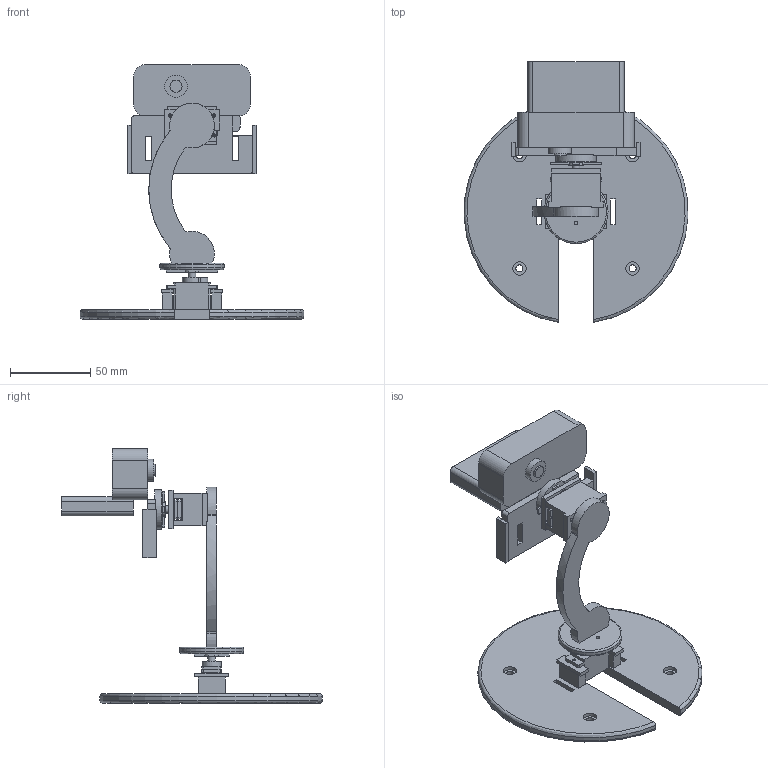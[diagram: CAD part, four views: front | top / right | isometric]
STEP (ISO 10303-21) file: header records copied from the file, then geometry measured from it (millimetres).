
FILE_DESCRIPTION(('Open CASCADE Model'),'2;1');
FILE_NAME('Open CASCADE Shape Model','2026-08-26T11:10:52',('Author'),( 'Open CASCADE'),'Open CASCADE STEP processor 7.9','Open CASCADE 7.9' ,'Unknown');
FILE_SCHEMA(('AUTOMOTIVE_DESIGN { 1 0 10303 214 1 1 1 1 }'));
Length unit declared in the file: millimetre
Products named in the file (11): C270_PanTilt_Full_Assembly_With_Servos; PanServo_StabilityBase; CurvedArm_SG90_TiltHolder; SG90_RetainingCap; Logitech_C270_ClipCradle; SG90_Pan_Body; SG90_Pan_Horn; SG90_Tilt_Body; SG90_Tilt_Horn; C270_Webcam_Body; C270_Fixed_Clip
Assembly tree (10 placements, depth 2):
  C270_PanTilt_Full_Assembly_With_Servos
    PanServo_StabilityBase
    CurvedArm_SG90_TiltHolder
    SG90_RetainingCap
    Logitech_C270_ClipCradle
    SG90_Pan_Body
    SG90_Pan_Horn
    SG90_Tilt_Body
    SG90_Tilt_Horn
    C270_Webcam_Body
    C270_Fixed_Clip
Bounding box: 139.83 x 162.77 x 158.91 mm (x, y, z)
Volume: 216838.7 mm3; surface area: 76393.9 mm2
Topology: 10 solids, 10 shells, 291 faces, 765 edges, 509 vertices
Faces by surface type: plane 191, cylinder 88, bspline 8, torus 4
Full cylindrical faces by diameter (mm): 1.9 x2, 2 x14, 2.2 x4, 2.3 x4, 3.2 x2, 4.4 x4, 4.7 x2, 7.6 x1, 8.4 x4, 9.6 x2, 14 x1, 21 x1, 25 x1, 40 x1
Entity records: 20028 total; most frequent: CARTESIAN_POINT 4646, DIRECTION 2719, LINE 1540, VECTOR 1540, ORIENTED_EDGE 1530, PCURVE 1530, DEFINITIONAL_REPRESENTATION 1530, EDGE_CURVE 765
